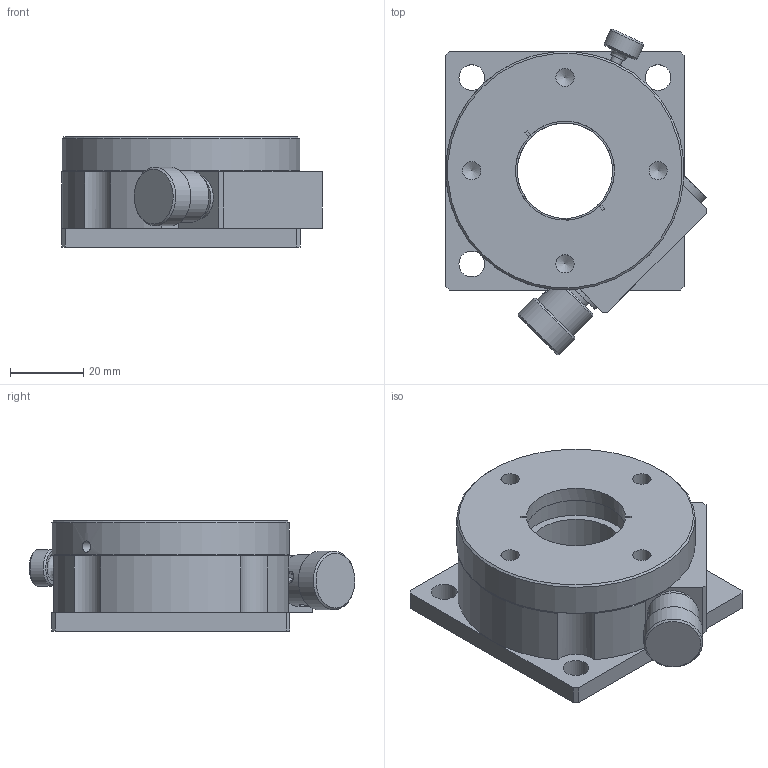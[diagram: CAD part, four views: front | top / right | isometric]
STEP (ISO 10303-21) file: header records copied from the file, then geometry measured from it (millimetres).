
FILE_DESCRIPTION((''),'2;1');
FILE_NAME('S:\1規格品図面ﾃﾞｰﾀ\OpticalHard\02_海外製品\1_Stags\KSW\KSW-65UU\KSW-65UU.stp','2007-07-18T10:34:29',('okegawa'),(''),'Autodesk Inventor 11','Autodesk Inventor 11','');
FILE_SCHEMA(('AUTOMOTIVE_DESIGN { 1 0 10303 214 1 1 1 1 }'));
Length unit declared in the file: millimetre
Products named in the file (3): KSW-65UU-C1-S08; KSW-65UU-C1-S07; KSW-65UU-C1-S06
Assembly tree (2 placements, depth 2):
  KSW-65UU-C1-S08
    KSW-65UU-C1-S07
    KSW-65UU-C1-S06
Bounding box: 71.04 x 88.81 x 30 mm (x, y, z)
Volume: 86988.3 mm3; surface area: 37289.2 mm2
Topology: 32 solids, 34 shells, 392 faces, 846 edges, 558 vertices
Faces by surface type: plane 180, bspline 84, cylinder 75, cone 38, sphere 12, torus 3
Full cylindrical faces by diameter (mm): 2.4 x1, 2.459 x1, 3 x5, 3.1 x1, 5 x6, 5.1 x1, 5.5 x4, 5.96 x6, 6.7 x2, 7.04 x4, 7.392 x2, 7.4 x2, 7.5 x1, 9 x1, 9.2 x1, 9.8 x1, 10 x2, 12 x1, 14 x1, 16 x1, 26 x1, 27 x1, 32 x1, 37 x2, 38 x1, 40 x1, 41 x1, 42 x1, 43 x1, 44 x1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
Entity records: 11284 total; most frequent: CARTESIAN_POINT 3796, DIRECTION 1502, ORIENTED_EDGE 1206, EDGE_LOOP 659, AXIS2_PLACEMENT_3D 616, EDGE_CURVE 603, VERTEX_POINT 497, FACE_OUTER_BOUND 392
